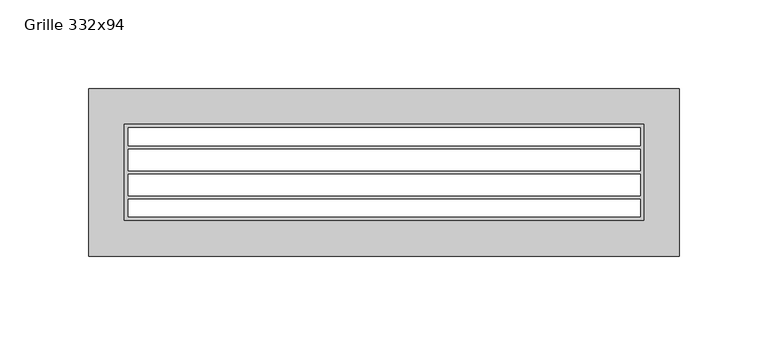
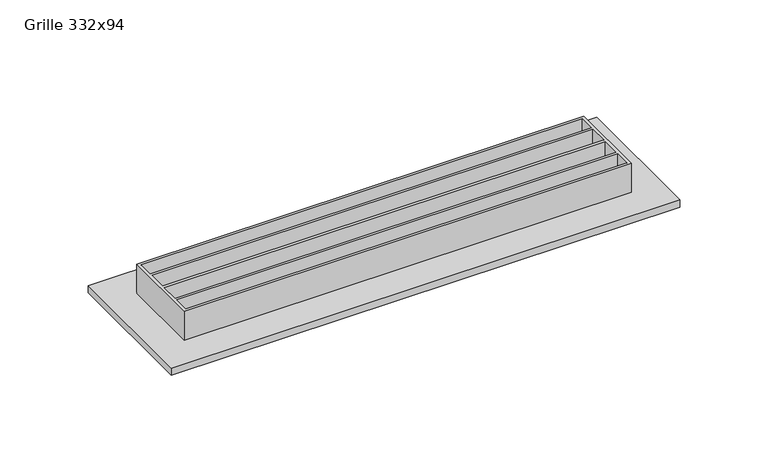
"""IFC4 building model written with IfcOpenShell, lengths in millimetres: air terminal geometry, NLRS_57_AIR_WPB_grille for plenum_M&G : Grille 332x94."""

from ifc_helpers import new_model, si_unit, origin, place, context, project, spatial, faceted_brep, source, transform, mapped, element, save


def grille_332x94_5d2099c3(model_context):
    return source(origin(), model_context, "Body", "Brep", [
        faceted_brep([(166.0, 47.0, 0.0), (-166.0, 47.0, 0.0), (-166.0, -47.0, 0.0), (166.0, -47.0, 0.0), (-146.0, 27.0, 0.0), (146.0, 27.0, 0.0), (146.0, -27.0, 0.0), (-146.0, -27.0, 0.0), (166.0, 47.0, -5.0), (166.0, -47.0, -5.0), (-166.0, -47.0, -5.0), (-166.0, 47.0, -5.0), (144.0, 25.0, -5.0), (-144.0, 25.0, -5.0), (-144.0, 15.0, -5.0), (144.0, 15.0, -5.0), (-144.0, 13.0, -5.0), (-144.0, 1.0, -5.0), (144.0, 1.0, -5.0), (144.0, 13.0, -5.0), (-144.0, -1.0, -5.0), (-144.0, -13.0, -5.0), (144.0, -13.0, -5.0), (144.0, -1.0, -5.0), (144.0, -25.0, -5.0), (144.0, -15.0, -5.0), (-144.0, -15.0, -5.0), (-144.0, -25.0, -5.0), (144.0, 1.0, 20.0), (144.0, 13.0, 20.0), (144.0, -13.0, 20.0), (144.0, -1.0, 20.0), (144.0, -25.0, 20.0), (144.0, -15.0, 20.0), (144.0, 25.0, 20.0), (144.0, 15.0, 20.0), (-144.0, -25.0, 20.0), (-144.0, 13.0, 20.0), (-144.0, 1.0, 20.0), (-144.0, -1.0, 20.0), (-144.0, -13.0, 20.0), (-144.0, -15.0, 20.0), (-144.0, 25.0, 20.0), (-144.0, 15.0, 20.0), (146.0, 27.0, 20.0), (-146.0, 27.0, 20.0), (-146.0, -27.0, 20.0), (146.0, -27.0, 20.0)], [[[0, 1, 2, 3], [4, 5, 6, 7]], [[8, 9, 10, 11], [12, 13, 14, 15], [16, 17, 18, 19], [20, 21, 22, 23], [24, 25, 26, 27]], [[1, 0, 8, 11]], [[2, 1, 11, 10]], [[3, 2, 10, 9]], [[0, 3, 9, 8]], [[19, 18, 28, 29]], [[23, 22, 30, 31]], [[24, 32, 33, 25]], [[34, 12, 15, 35]], [[24, 27, 36, 32]], [[17, 16, 37, 38]], [[21, 20, 39, 40]], [[36, 27, 26, 41]], [[13, 42, 43, 14]], [[13, 12, 34, 42]], [[44, 45, 46, 47], [34, 35, 43, 42], [32, 36, 41, 33], [38, 37, 29, 28], [40, 39, 31, 30]], [[45, 44, 5, 4]], [[46, 45, 4, 7]], [[47, 46, 7, 6]], [[44, 47, 6, 5]], [[43, 35, 15, 14]], [[29, 37, 16, 19]], [[38, 28, 18, 17]], [[31, 39, 20, 23]], [[40, 30, 22, 21]], [[33, 41, 26, 25]]]),
    ])


if __name__ == "__main__":
    model = new_model("IFC4")
    model_context = context("Model", 3, world=origin())
    ifc_project = project(units=[si_unit("LENGTHUNIT", "METRE", prefix="MILLI")], contexts=[model_context])
    site = spatial("IfcSite", under=ifc_project)
    building = spatial("IfcBuilding", under=site)
    placement = place(None, origin())
    grille_332x94_shape = grille_332x94_5d2099c3(model_context)
    element("IfcAirTerminal", 1, ObjectType="NLRS_57_AIR_WPB_grille for plenum_M&G : Grille 332x94", at=placement, inside=building, context=model_context, shape_type="MappedRepresentation", body=[
        mapped(grille_332x94_shape, transform((0.0, 0.0, 0.0), x_axis=(1.0, 0.0, 0.0), y_axis=(0.0, 1.0, 0.0), z_axis=(0.0, 0.0, 1.0))),
    ])
    save(model, "model.ifc")
